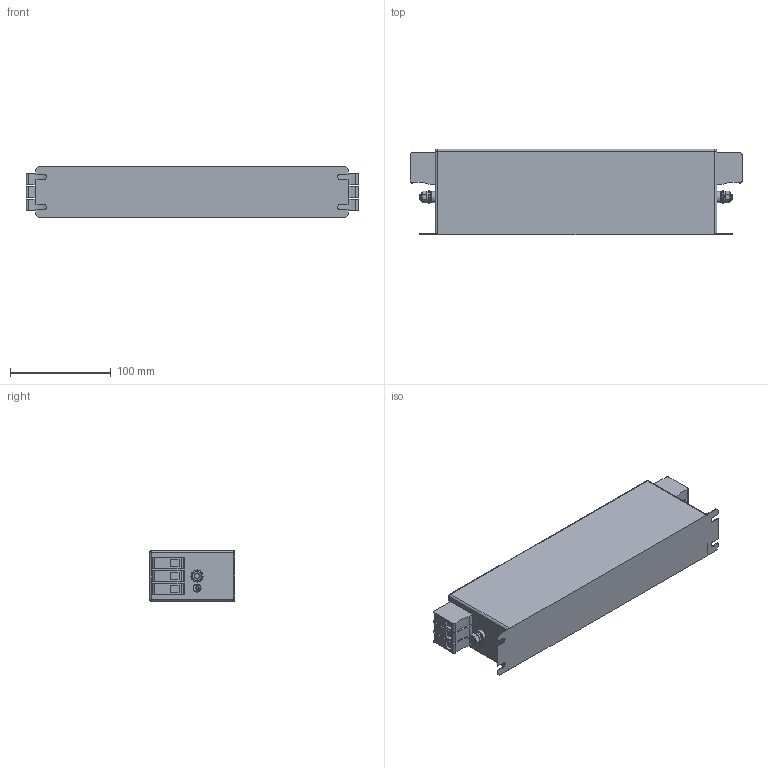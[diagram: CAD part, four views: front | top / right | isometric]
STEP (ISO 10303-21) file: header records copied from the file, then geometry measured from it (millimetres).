
FILE_DESCRIPTION(/* description */ ('raw material description'),/* implementation_level */ '2;1');
FILE_NAME(/* name */ 'C:\Users\Oliver.Volic\Desktop\FN3258-42-33.stp',/* time_stamp */ '2019-04-16T10:30:54+02:00',/* author */ ('Oliver.Volic'),/* organization */ ('Schaffner EMV AG'),/* preprocessor_version */ 'ST-DEVELOPER v16.5',/* originating_system */ 'Autodesk Inventor 2017',/* authorisation */ '');
FILE_SCHEMA (('AUTOMOTIVE_DESIGN { 1 0 10303 214 3 1 1 }'));
Length unit declared in the file: millimetre
Products named in the file (1): FN3258-42-33
Bounding box: 329.8 x 85 x 50 mm (x, y, z)
Volume: 1241575.8 mm3; surface area: 100340.4 mm2
Topology: 1 solids, 7 shells, 248 faces, 566 edges, 370 vertices
Faces by surface type: plane 176, cylinder 60, cone 8, sphere 4
Full cylindrical faces by diameter (mm): 1 x6, 6 x4, 6.4 x2, 7 x2, 8 x2, 8.5 x6, 11.05 x2, 12 x2
Entity records: 6997 total; most frequent: CARTESIAN_POINT 1191, DIRECTION 1140, ORIENTED_EDGE 1056, EDGE_CURVE 528, AXIS2_PLACEMENT_3D 387, LINE 366, VECTOR 366, VERTEX_POINT 366
